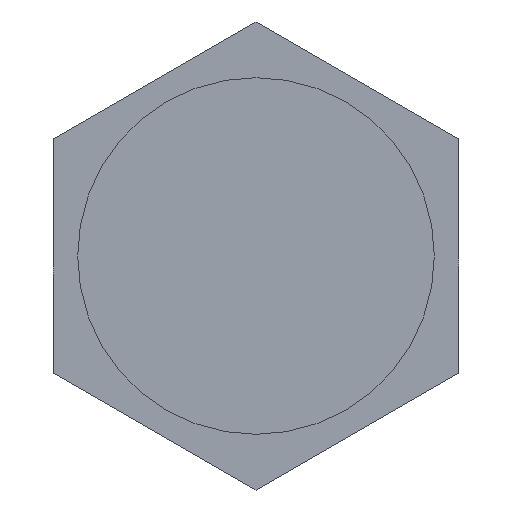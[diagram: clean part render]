
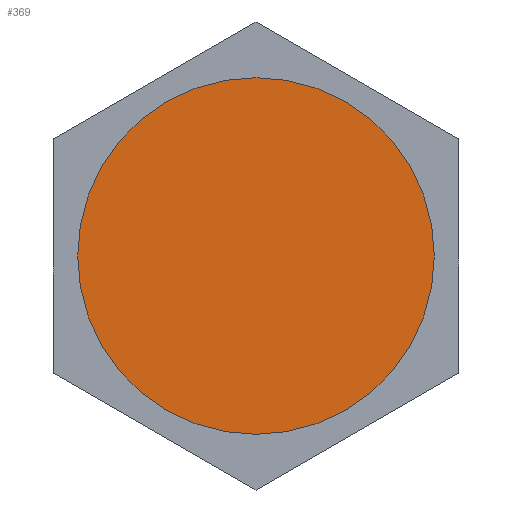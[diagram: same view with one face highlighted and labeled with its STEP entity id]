
A CAD part, left-side view. The second image highlights one B-rep face of the part: STEP entity #369.
In plain terms, the highlighted planar face has unit normal (-1, 0, 0).
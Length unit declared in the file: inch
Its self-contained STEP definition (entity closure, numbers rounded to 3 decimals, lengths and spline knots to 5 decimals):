
#43 = ORIENTED_EDGE ( 'NONE', *, *, #294, .F. ) ;
#50 = EDGE_LOOP ( 'NONE', ( #43, #169 ) ) ;
#56 = VERTEX_POINT ( 'NONE', #515 ) ;
#58 = VERTEX_POINT ( 'NONE', #520 ) ;
#99 = CIRCLE ( 'NONE', #313, 0.4375 ) ;
#148 = CIRCLE ( 'NONE', #310, 0.4375 ) ;
#169 = ORIENTED_EDGE ( 'NONE', *, *, #288, .F. ) ;
#209 = CARTESIAN_POINT ( 'NONE',  ( -4.792, 0., 0. ) ) ;
#210 = DIRECTION ( 'NONE',  ( 0., 0., -1. ) ) ;
#212 = DIRECTION ( 'NONE',  ( 1., 0., 0. ) ) ;
#222 = CARTESIAN_POINT ( 'NONE',  ( -4.792, 0., 0. ) ) ;
#224 = DIRECTION ( 'NONE',  ( 1., 0., 0. ) ) ;
#225 = DIRECTION ( 'NONE',  ( 0., 0., -1. ) ) ;
#268 = AXIS2_PLACEMENT_3D ( 'NONE', #563, #564, #565 ) ;
#288 = EDGE_CURVE ( 'NONE', #58, #56, #99, .T. ) ;
#294 = EDGE_CURVE ( 'NONE', #56, #58, #148, .T. ) ;
#310 = AXIS2_PLACEMENT_3D ( 'NONE', #222, #224, #225 ) ;
#313 = AXIS2_PLACEMENT_3D ( 'NONE', #209, #212, #210 ) ;
#369 = ADVANCED_FACE ( 'NONE', ( #421 ), #477, .T. ) ;
#421 = FACE_OUTER_BOUND ( 'NONE', #50, .T. ) ;
#477 = PLANE ( 'NONE',  #268 ) ;
#515 = CARTESIAN_POINT ( 'NONE',  ( -4.792, 0., -0.4375 ) ) ;
#520 = CARTESIAN_POINT ( 'NONE',  ( -4.792, 0., 0.4375 ) ) ;
#563 = CARTESIAN_POINT ( 'NONE',  ( -4.792, 0.4375, 0. ) ) ;
#564 = DIRECTION ( 'NONE',  ( -1., 0., 0. ) ) ;
#565 = DIRECTION ( 'NONE',  ( 0., 0., 1. ) ) ;
